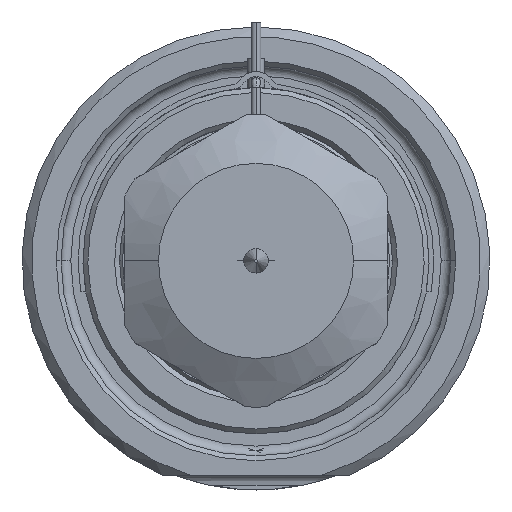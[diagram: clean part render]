
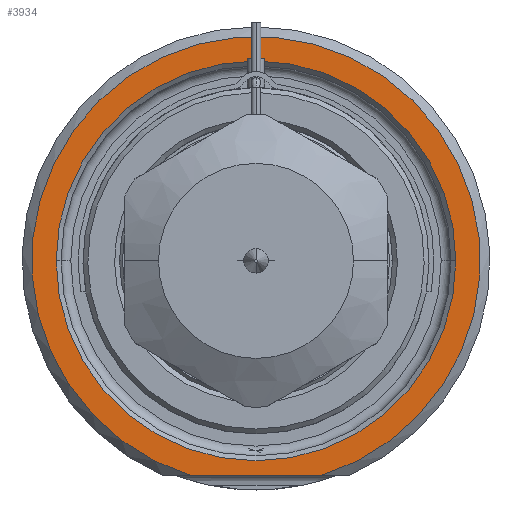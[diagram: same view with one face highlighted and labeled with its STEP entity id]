
A CAD part, front view. The second image highlights one B-rep face of the part: STEP entity #3934.
In plain terms, the highlighted planar face has unit normal (0, -1, 0).
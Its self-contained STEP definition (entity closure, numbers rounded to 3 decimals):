
#1=DIRECTION('',(1.,0.,0.));
#2=VECTOR('',#1,13.416);
#3=CARTESIAN_POINT('',(-6.708,0.,-22.));
#4=LINE('',#3,#2);
#5=CARTESIAN_POINT('',(0.,0.,0.));
#6=DIRECTION('',(0.,1.,0.));
#7=DIRECTION('',(-1.,0.,0.));
#8=AXIS2_PLACEMENT_3D('',#5,#6,#7);
#10=CARTESIAN_POINT('',(0.,0.,0.));
#11=DIRECTION('',(0.,1.,0.));
#12=DIRECTION('',(1.,0.,0.));
#13=AXIS2_PLACEMENT_3D('',#10,#11,#12);
#121=CARTESIAN_POINT('',(0.,0.,0.));
#122=DIRECTION('',(0.,-1.,0.));
#123=DIRECTION('',(0.292,0.,-0.957));
#124=AXIS2_PLACEMENT_3D('',#121,#122,#123);
#3309=CARTESIAN_POINT('',(-20.5,0.,0.));
#3310=CARTESIAN_POINT('',(20.5,0.,0.));
#3311=VERTEX_POINT('',#3309);
#3312=VERTEX_POINT('',#3310);
#3363=CARTESIAN_POINT('',(-6.708,0.,-22.));
#3364=CARTESIAN_POINT('',(6.708,0.,-22.));
#3365=VERTEX_POINT('',#3363);
#3366=VERTEX_POINT('',#3364);
#3917=CARTESIAN_POINT('',(0.,0.,0.));
#3918=DIRECTION('',(0.,-1.,0.));
#3919=DIRECTION('',(1.,0.,0.));
#3920=AXIS2_PLACEMENT_3D('',#3917,#3918,#3919);
#3921=PLANE('',#3920);
#3923=ORIENTED_EDGE('',*,*,#3922,.F.);
#3925=ORIENTED_EDGE('',*,*,#3924,.F.);
#3926=EDGE_LOOP('',(#3923,#3925));
#3927=FACE_OUTER_BOUND('',#3926,.F.);
#3929=ORIENTED_EDGE('',*,*,#3928,.F.);
#3931=ORIENTED_EDGE('',*,*,#3930,.F.);
#3932=EDGE_LOOP('',(#3929,#3931));
#3933=FACE_BOUND('',#3932,.F.);
#3934=ADVANCED_FACE('',(#3927,#3933),#3921,.T.);
#9=CIRCLE('',#8,20.5);
#14=CIRCLE('',#13,20.5);
#125=CIRCLE('',#124,23.);
#3922=EDGE_CURVE('',#3365,#3366,#4,.T.);
#3924=EDGE_CURVE('',#3366,#3365,#125,.T.);
#3928=EDGE_CURVE('',#3311,#3312,#9,.T.);
#3930=EDGE_CURVE('',#3312,#3311,#14,.T.);
